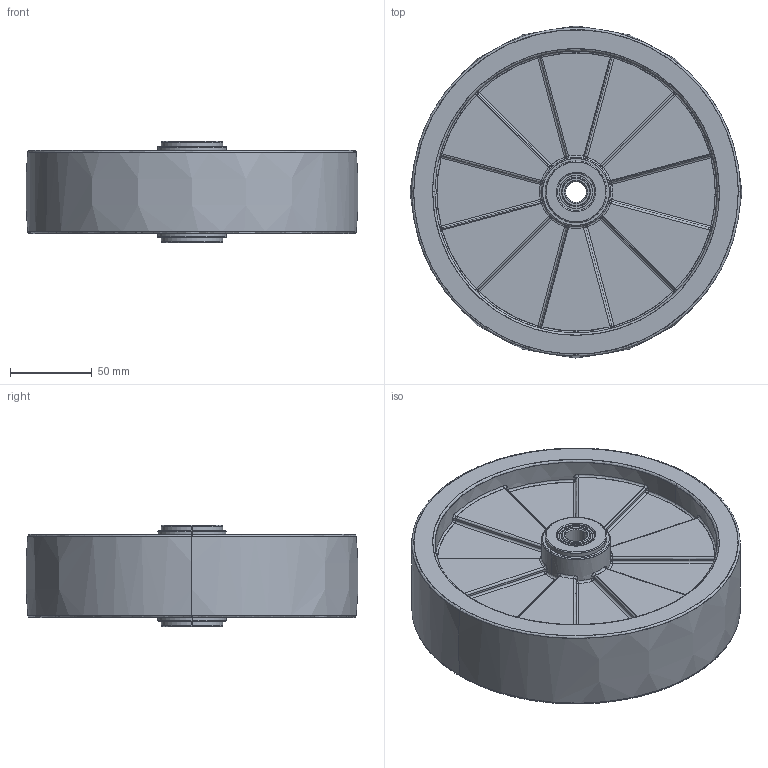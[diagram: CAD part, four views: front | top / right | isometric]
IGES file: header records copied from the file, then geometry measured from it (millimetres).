
Start section: SolidWorks IGES file using analytic representation for surfaces
Global section: file name: \\192.168.10.19\Nimesh\Inquiry\Tyler Manz\Output\2021-09-01\Caster Wheels\8'' x 2'' Glass Filled Nylon Wheel for Casters\SCC-GFNR820 3D IGES.IGS; native system: SolidWorks 2016; preprocessor: SolidWorks 2016; author: rahul.sarma; date: 220213.205251; units: inch
Bounding box: 202.94 x 202.94 x 61.91 mm (x, y, z)
Surface area: 119602.7 mm2 (no closed solid volume)
Topology: 0 solids, 0 shells, 384 faces, 3428 edges, 3368 vertices
Faces by surface type: revolution 202, bspline 182
